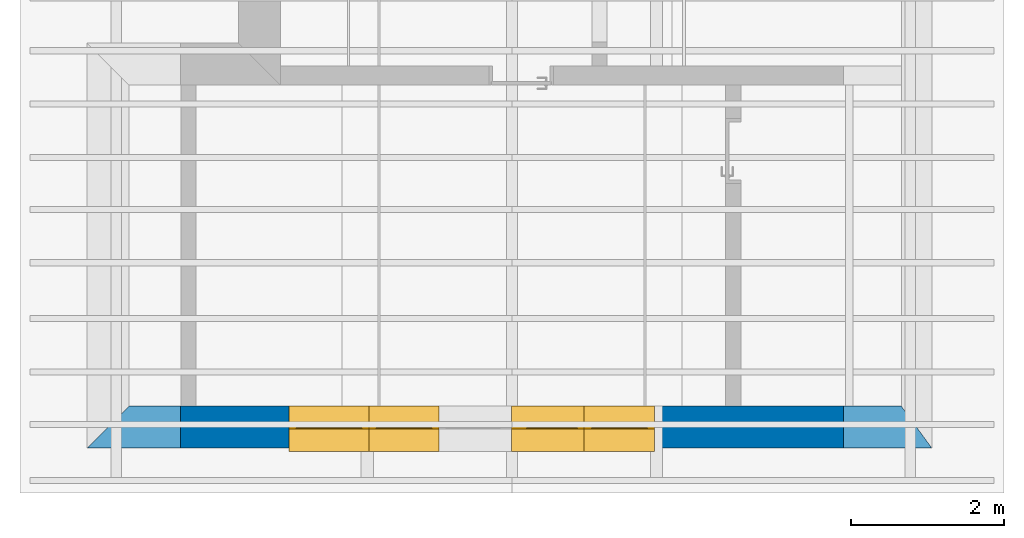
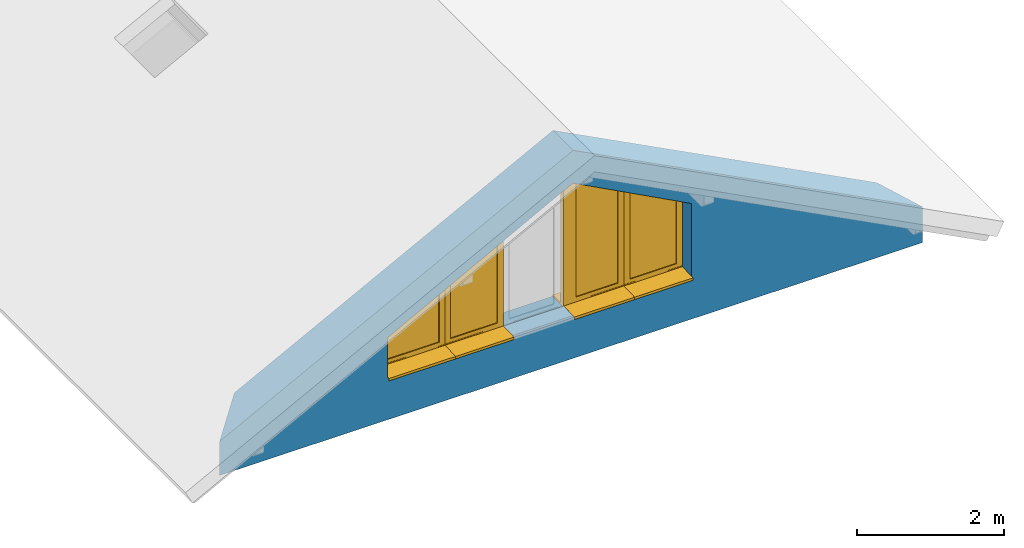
# One storey, part 4 of 18: 4 windows, 1 wall, 5 openings.
"""IFC2X3 building model written with IfcOpenShell, lengths in metres."""

from ifc_helpers import new_model, entity, si_unit, converted_unit, derived_unit, direction, frame, origin, place, context, subcontext, project, spatial, polyline, outline, extrude, clip, bounded_halfspace, faceted_brep, source, transform, mapped, material, material_list, layer, layer_set, layer_usage, type_object, type_shapes, element, fill, save


model = new_model("IFC2X3")

# Units and contexts
model_context = context("Model", 3, precision=1e-05, world=origin(), true_north=direction((6.123233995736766e-17, 1.0)))
body_context = subcontext(model_context, "Body", "Model", "MODEL_VIEW")
ifc_project = project(units=[si_unit("LENGTHUNIT", "METRE"), si_unit("AREAUNIT", "SQUARE_METRE"), si_unit("VOLUMEUNIT", "CUBIC_METRE"), si_unit("POWERUNIT", "WATT"), derived_unit("USERDEFINED", [(si_unit("MASSUNIT", "GRAM", prefix="KILO"), 1), (si_unit("TIMEUNIT", "SECOND"), -3)]), derived_unit("THERMALRESISTANCEUNIT", [(si_unit("MASSUNIT", "GRAM", prefix="KILO"), -1), (si_unit("TIMEUNIT", "SECOND"), 3), (si_unit("THERMODYNAMICTEMPERATUREUNIT", "KELVIN"), 1)]), derived_unit("USERDEFINED", [(si_unit("MASSUNIT", "GRAM", prefix="KILO"), 1), (si_unit("TIMEUNIT", "SECOND"), -2), (si_unit("THERMODYNAMICTEMPERATUREUNIT", "KELVIN"), -1)]), derived_unit("THERMALTRANSMITTANCEUNIT", [(si_unit("MASSUNIT", "GRAM", prefix="KILO"), 1), (si_unit("TIMEUNIT", "SECOND"), -3), (si_unit("THERMODYNAMICTEMPERATUREUNIT", "KELVIN"), -1)]), converted_unit("PLANEANGLEUNIT", "DEGREE", entity("IfcPlaneAngleMeasure", 0.017453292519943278), si_unit("PLANEANGLEUNIT", "RADIAN"), dimensions=[0, 0, 0, 0, 0, 0, 0]), derived_unit("MOMENTOFINERTIAUNIT", [(si_unit("LENGTHUNIT", "METRE"), 4)])], contexts=[model_context])

# Site, building, storey
site_placement = place(None, origin())
site = spatial("IfcSite", under=ifc_project, at=site_placement, Name="Default", CompositionType="ELEMENT")
building_placement = place(site_placement, origin())
building = spatial("IfcBuilding", under=site, at=building_placement, CompositionType="ELEMENT")
storey_placement = place(building_placement, frame((0.0, 0.0, 5.4)))
storey = spatial("IfcBuildingStorey", under=building, at=storey_placement, Name="1. Obergeschoss", CompositionType="ELEMENT", Elevation=5.4)

# Wall, openings, windows
ifc_material_1 = material(Name="Dämmung - hart")
ifc_layer_1 = layer(ifc_material_1, 0.24999999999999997)
ifc_material_2 = material(Name="Mauerwerk - Ziegel")
ifc_layer_2 = layer(ifc_material_2, 0.29999999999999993)
ifc_layer_set = layer_set([ifc_layer_1, ifc_layer_2], Name="Basiswand:Ziegel+WD hart 300+250")
ifc_layer_usage = layer_usage(ifc_layer_set, "AXIS2", "POSITIVE", -0.27499999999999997)
wall_type = type_object("IfcWallType", Name="Basiswand:Ziegel+WD hart 300+250", PredefinedType="STANDARD", material=ifc_layer_set)
wall_placement = place(storey_placement, frame((27.55084124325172, 15.567272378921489, 0.0)))
wall = element("IfcWallStandardCase", 1, at=wall_placement, inside=storey, type_object=wall_type, material=ifc_layer_usage, Name="Basiswand:Ziegel+WD hart 300+250", ObjectType="Basiswand:Ziegel+WD hart 300+250", context=body_context, shape_type="Clipping", body=[
    clip(clip(extrude(outline(polyline([(11.075878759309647, -0.2750000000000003), (10.675878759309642, 0.27499999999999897), (10.043647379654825, 0.2750000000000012), (9.943647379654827, 0.27500000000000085), (8.572913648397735, 0.27500000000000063), (8.372913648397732, 0.27499999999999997), (1.4306053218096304, 0.27500000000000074), (1.2306053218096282, 0.2750000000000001), (0.5499999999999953, 0.27499999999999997), (0.0, -0.2750000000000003), (11.075878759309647, -0.2750000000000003)])), origin(), (0.0, 0.0, 1.0), 3.4651574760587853), bounded_halfspace(frame((0.5499999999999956, 0.2750000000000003, 0.8510321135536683), z_axis=(-0.4617486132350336, 0.0, 0.8870108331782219), x_axis=(0.0, -1.0, 0.0)), False, frame((0.5499999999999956, 0.2750000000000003, 0.8510321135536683)), polyline([(0.0, 0.0), (-0.5499999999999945, -0.5500000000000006), (5.021688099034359, -0.5500000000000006), (5.0216880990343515, 0.0), (0.880605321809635, 0.0), (0.6806053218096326, 0.0), (0.0, 0.0)]))), bounded_halfspace(frame((5.57168809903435, -0.2750000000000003, 3.465157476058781), z_axis=(0.4617486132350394, 0.0, 0.8870108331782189), x_axis=(0.0, 1.0, 0.0)), False, frame((5.57168809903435, -0.2750000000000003, 3.465157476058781)), polyline([(0.0, 0.0), (5.5041906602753, 0.0), (5.104190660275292, 0.5500000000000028), (4.471959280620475, 0.5500000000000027), (4.3719592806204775, 0.5500000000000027), (3.0012255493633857, 0.5500000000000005), (2.801225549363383, 0.5500000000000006), (0.0, 0.5500000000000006), (0.0, 0.0)]))),
])
opening_1_placement = place(wall_placement, frame((-27.550841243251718, -15.567272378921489, 0.7024999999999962)))
opening_1 = element("IfcOpeningElement", 2, at=opening_1_placement, cuts=wall, Name="Basiswand:Ziegel+WD hart 300+250", ObjectType="Opening", context=body_context, shape_type="Brep", body=[
    faceted_brep([(34.9879700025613, 15.27227237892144, 1.2243228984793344), (34.067970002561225, 15.272272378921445, 1.7134955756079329), (34.067970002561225, 15.272272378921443, 0.010000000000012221), (34.9879700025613, 15.27227237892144, 0.010000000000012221), (34.06797000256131, 15.542272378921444, 1.7134955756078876), (34.06797000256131, 15.542272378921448, 1.747472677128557), (34.06797000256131, 15.842272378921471, 1.747472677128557), (34.0679700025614, 15.842272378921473, 0.0), (34.06797000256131, 15.542272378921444, 0.0), (34.06797000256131, 15.542272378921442, 0.020000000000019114), (34.98797000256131, 15.542272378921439, 0.020000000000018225), (34.98797000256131, 15.542272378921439, 0.0), (34.98797000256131, 15.842272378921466, 0.0), (34.98797000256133, 15.842272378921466, 1.2582999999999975), (34.98797000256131, 15.542272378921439, 1.2582999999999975), (34.98797000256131, 15.542272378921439, 1.2243228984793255)], [[[0, 1, 2, 3]], [[1, 4, 5, 6, 7, 8, 9, 2]], [[2, 9, 10, 3]], [[3, 10, 11, 12, 13, 14, 15, 0]], [[0, 15, 4, 1]], [[6, 13, 12, 7]], [[11, 10, 9, 8]], [[6, 5, 14, 13]], [[12, 11, 8, 7]], [[5, 4, 15, 14]]]),
])
opening_2_placement = place(wall_placement, frame((-27.550841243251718, -15.567272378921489, 0.7024999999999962)))
opening_2 = element("IfcOpeningElement", 3, at=opening_2_placement, cuts=wall, Name="Basiswand:Ziegel+WD hart 300+250", ObjectType="Opening", context=body_context, shape_type="Brep", body=[
    faceted_brep([(31.247970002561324, 15.272272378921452, 1.2243228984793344), (31.247970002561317, 15.27227237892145, 0.010000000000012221), (32.1679700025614, 15.27227237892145, 0.010000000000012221), (32.1679700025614, 15.27227237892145, 1.7134955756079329), (32.16797000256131, 15.542272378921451, 0.020000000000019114), (32.16797000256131, 15.542272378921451, 0.0), (32.167970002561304, 15.842272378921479, 0.0), (32.167970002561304, 15.842272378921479, 1.747472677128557), (32.167970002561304, 15.542272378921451, 1.747472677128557), (32.16797000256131, 15.54227237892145, 1.7134955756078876), (31.247970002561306, 15.542272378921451, 0.020000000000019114), (31.247970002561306, 15.542272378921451, 1.2243228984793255), (31.247970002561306, 15.542272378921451, 1.2582999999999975), (31.247970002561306, 15.842272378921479, 1.2582999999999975), (31.247970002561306, 15.842272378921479, 0.0), (31.247970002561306, 15.542272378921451, 0.0)], [[[0, 1, 2, 3]], [[3, 2, 4, 5, 6, 7, 8, 9]], [[2, 1, 10, 4]], [[1, 0, 11, 12, 13, 14, 15, 10]], [[0, 3, 9, 11]], [[7, 6, 14, 13]], [[8, 12, 11, 9]], [[7, 13, 12, 8]], [[14, 6, 5, 15]], [[15, 5, 4, 10]]]),
])
opening_3_placement = place(wall_placement, frame((-27.550841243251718, -15.567272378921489, 0.702472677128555)))
opening_3 = element("IfcOpeningElement", 4, at=opening_3_placement, cuts=wall, Name="Basiswand:Ziegel+WD hart 300+250", ObjectType="Opening", context=body_context, shape_type="Brep", body=[
    faceted_brep([(34.06797000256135, 15.272272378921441, 1.7135228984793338), (33.117970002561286, 15.272272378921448, 2.2186468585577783), (33.117970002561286, 15.272272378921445, 0.010000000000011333), (34.06797000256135, 15.272272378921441, 0.010000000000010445), (33.11797000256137, 15.542272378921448, 2.218646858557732), (33.11797000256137, 15.54227237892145, 2.2526239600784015), (33.11797000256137, 15.842272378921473, 2.2526239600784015), (33.117970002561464, 15.842272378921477, 0.0), (33.11797000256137, 15.542272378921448, 0.0), (33.11797000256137, 15.542272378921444, 0.020000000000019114), (34.06797000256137, 15.54227237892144, 0.020000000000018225), (34.06797000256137, 15.54227237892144, 0.0), (34.06797000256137, 15.842272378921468, 0.0), (34.06797000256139, 15.842272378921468, 1.7474999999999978), (34.06797000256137, 15.54227237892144, 1.7474999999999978), (34.06797000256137, 15.54227237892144, 1.7135228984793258)], [[[0, 1, 2, 3]], [[1, 4, 5, 6, 7, 8, 9, 2]], [[2, 9, 10, 3]], [[3, 10, 11, 12, 13, 14, 15, 0]], [[0, 15, 4, 1]], [[6, 13, 12, 7]], [[11, 10, 9, 8]], [[6, 5, 14, 13]], [[12, 11, 8, 7]], [[5, 4, 15, 14]]]),
])
opening_4_placement = place(wall_placement, frame((-27.550841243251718, -15.567272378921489, 0.702472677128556)))
element("IfcOpeningElement", 5, at=opening_4_placement, cuts=wall, Name="Basiswand:Ziegel+WD hart 300+250", ObjectType="Opening", context=body_context, shape_type="Brep", body=[
    faceted_brep([(32.16797000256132, 15.272272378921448, 1.7135228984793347), (32.16797000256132, 15.272272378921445, 0.010000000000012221), (33.117970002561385, 15.272272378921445, 0.010000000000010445), (33.117970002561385, 15.272272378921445, 2.2186468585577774), (33.1179700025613, 15.542272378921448, 0.020000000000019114), (33.11797000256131, 15.542272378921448, 0.0), (33.1179700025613, 15.842272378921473, 0.0), (33.1179700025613, 15.842272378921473, 2.2526239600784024), (33.1179700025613, 15.542272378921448, 2.252623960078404), (33.11797000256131, 15.542272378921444, 2.218646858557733), (32.1679700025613, 15.542272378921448, 0.020000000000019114), (32.1679700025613, 15.542272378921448, 1.7135228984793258), (32.167970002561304, 15.542272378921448, 1.7474999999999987), (32.1679700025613, 15.842272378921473, 1.7474999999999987), (32.1679700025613, 15.842272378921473, 0.0), (32.1679700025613, 15.542272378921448, 0.0)], [[[0, 1, 2, 3]], [[3, 2, 4, 5, 6, 7, 8, 9]], [[2, 1, 10, 4]], [[1, 0, 11, 12, 13, 14, 15, 10]], [[0, 3, 9, 11]], [[7, 6, 14, 13]], [[8, 12, 11, 9]], [[7, 13, 12, 8]], [[14, 6, 5, 15]], [[15, 5, 4, 10]]]),
])
opening_5_placement = place(wall_placement, frame((-27.550841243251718, -15.567272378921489, 0.7024999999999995)))
opening_5 = element("IfcOpeningElement", 6, at=opening_5_placement, cuts=wall, Name="Basiswand:Ziegel+WD hart 300+250", ObjectType="Opening", context=body_context, shape_type="Brep", body=[
    faceted_brep([(30.197970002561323, 15.272272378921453, 0.6660228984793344), (30.197970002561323, 15.272272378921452, 0.010000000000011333), (31.247970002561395, 15.272272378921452, 0.010000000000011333), (31.247970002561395, 15.272272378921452, 1.2243178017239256), (31.24797000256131, 15.542272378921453, 0.020000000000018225), (31.24797000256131, 15.542272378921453, 0.0), (31.24797000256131, 15.84227237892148, 0.0), (31.247970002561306, 15.84227237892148, 1.2582949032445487), (31.24797000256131, 15.542272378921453, 1.2582949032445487), (31.24797000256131, 15.542272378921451, 1.2243178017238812), (30.19797000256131, 15.542272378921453, 0.020000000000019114), (30.19797000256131, 15.542272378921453, 0.6660228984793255), (30.19797000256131, 15.542272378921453, 0.6999999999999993), (30.19797000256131, 15.84227237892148, 0.6999999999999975), (30.19797000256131, 15.84227237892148, 0.0), (30.19797000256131, 15.542272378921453, 0.0)], [[[0, 1, 2, 3]], [[3, 2, 4, 5, 6, 7, 8, 9]], [[2, 1, 10, 4]], [[1, 0, 11, 12, 13, 14, 15, 10]], [[0, 3, 9, 11]], [[7, 6, 14, 13]], [[8, 12, 11, 9]], [[7, 13, 12, 8]], [[14, 6, 5, 15]], [[15, 5, 4, 10]]]),
])
ifc_material_3 = material(Name="Holz - generisch 140-100-70")
ifc_material_4 = material(Name="Kunststoff - grau 70-70-70")
ifc_material_5 = material(Name="Glas - Isolierverglasung klar")
ifc_material_list = material_list([ifc_material_3, ifc_material_4, ifc_material_5])
window_style_1 = type_object("IfcWindowStyle", Name="FE Schräg 1 tlg - Fix:920 x 1258", ConstructionType="NOTDEFINED", OperationType="NOTDEFINED", ParameterTakesPrecedence=False, Sizeable=False, material=ifc_material_list)
shared_shape_1 = source(origin(), body_context, "Body", "SolidModel", [
    extrude(outline(polyline([(-0.07333333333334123, -0.014333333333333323), (0.1366666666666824, -0.014333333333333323), (0.1366666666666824, 0.010666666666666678), (-0.06333333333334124, 0.010666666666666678), (-0.06333333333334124, 0.0036666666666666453), (-0.07333333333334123, 0.0036666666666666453), (-0.07333333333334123, -0.014333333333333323)])), frame((0.9200000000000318, 0.6433333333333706, 0.010666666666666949), z_axis=(-1.0, 0.0, 0.0), x_axis=(0.0, 1.0, 0.0)), (0.0, 0.0, 1.0), 0.9199999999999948),
    extrude(outline(polyline([(-0.9960295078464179, -0.4599999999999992), (0.7514431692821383, -0.4599999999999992), (0.7514431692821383, 0.4599999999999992), (-0.506856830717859, 0.4599999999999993), (-0.9960295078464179, -0.4599999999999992)]), holes=[polyline([(-0.8435858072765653, -0.36500000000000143), (-0.4527793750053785, 0.3699999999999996), (0.6514431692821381, 0.3699999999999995), (0.6514431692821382, -0.36500000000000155), (-0.8435858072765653, -0.36500000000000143)])]), frame((0.4600000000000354, 0.8700000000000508, 0.7514431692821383), z_axis=(0.0, -1.0, 0.0), x_axis=(0.0, 0.0, -1.0)), (0.0, 0.0, 1.0), 0.08999999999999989),
    extrude(outline(polyline([(-0.8452160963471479, -0.3675000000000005), (0.6498128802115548, -0.3675000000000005), (0.6498128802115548, 0.3675000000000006), (-0.4544096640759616, 0.3675000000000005), (-0.8452160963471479, -0.3675000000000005)])), frame((0.4625000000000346, 0.855000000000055, 0.7498128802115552), z_axis=(0.0, -1.0, 0.0), x_axis=(0.0, 0.0, -1.0)), (0.0, 0.0, 1.0), 0.04399999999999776),
    faceted_brep([(0.9200000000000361, 1.1620000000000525, 0.011185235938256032), (0.0, 1.1620000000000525, 0.011185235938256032), (0.0, 1.1400000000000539, 0.01200005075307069), (0.0, 0.8720000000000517, 0.021925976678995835), (0.9200000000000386, 0.8720000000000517, 0.021925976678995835), (0.9200000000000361, 1.1400000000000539, 0.01200005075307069), (0.9200000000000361, 1.1620000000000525, -0.028814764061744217), (0.0, 1.1620000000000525, -0.028814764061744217), (0.9200000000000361, 1.1500000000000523, -0.028814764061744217), (0.0, 1.1500000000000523, -0.028814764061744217), (0.9200000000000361, 1.1500000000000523, -0.0268147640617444), (0.0, 1.1500000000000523, -0.0268147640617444), (0.9200000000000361, 1.1600000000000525, -0.0268147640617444), (0.0, 1.1600000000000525, -0.0268147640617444), (0.9200000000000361, 1.1600000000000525, 0.009259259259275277), (0.0, 1.1600000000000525, 0.009259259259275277), (0.9200000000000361, 1.1400000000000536, 0.010000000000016), (0.9200000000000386, 0.8700000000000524, 0.02000000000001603), (0.0, 0.8700000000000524, 0.02000000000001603), (0.0, 1.1400000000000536, 0.010000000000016), (0.9200000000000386, 0.8700000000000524, 0.040000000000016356), (0.0, 0.8700000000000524, 0.040000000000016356), (0.9200000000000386, 0.8720000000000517, 0.040000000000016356), (0.0, 0.8720000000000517, 0.040000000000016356)], [[[0, 1, 2, 3, 4, 5]], [[6, 7, 1, 0]], [[8, 9, 7, 6]], [[10, 11, 9, 8]], [[12, 13, 11, 10]], [[14, 15, 13, 12]], [[16, 17, 18, 19, 15, 14]], [[20, 21, 18, 17]], [[22, 23, 21, 20]], [[4, 3, 23, 22]], [[16, 14, 12, 10, 8, 6, 0, 5]], [[19, 18, 21, 23, 3, 2]], [[5, 4, 22, 20, 17, 16]], [[2, 1, 7, 9, 11, 13, 15, 19]]]),
])
type_shapes(window_style_1, [shared_shape_1])
window_1_placement = place(opening_2_placement, frame((32.16797000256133, 16.4122723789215, 0.0), z_axis=(0.0, 0.0, 1.0), x_axis=(-1.0, 0.0, 0.0)))
window_1 = element("IfcWindow", 7, at=window_1_placement, inside=storey, type_object=window_style_1, material=ifc_material_list, Name="FE Schräg 1 tlg - Fix:920 x 1258", ObjectType="FE Schräg 1 tlg - Fix:920 x 1258", OverallHeight=2.597472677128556, OverallWidth=1.0257961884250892, context=body_context, shape_type="MappedRepresentation", body=[
    mapped(shared_shape_1, transform((0.0, 0.0, 0.0), scale=1.0)),
])
fill(opening_2, window_1)
window_style_2 = type_object("IfcWindowStyle", Name="FE Schräg 1 tlg - Fix:950 x 1747", ConstructionType="NOTDEFINED", OperationType="NOTDEFINED", ParameterTakesPrecedence=False, Sizeable=False, material=ifc_material_list)
shared_shape_2 = source(origin(), body_context, "Body", "SolidModel", [
    extrude(outline(polyline([(-0.014333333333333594, -0.07333333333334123), (0.0036666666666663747, -0.07333333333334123), (0.0036666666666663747, -0.06333333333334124), (0.010666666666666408, -0.06333333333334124), (0.010666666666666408, 0.1366666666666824), (-0.014333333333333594, 0.1366666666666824), (-0.014333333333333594, -0.07333333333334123)])), frame((0.0, 0.07333333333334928, 0.010666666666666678), z_axis=(1.0, 0.0, 0.0), x_axis=(0.0, 0.0, -1.0)), (0.0, 0.0, 1.0), 0.9499999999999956),
    extrude(outline(polyline([(-1.2525929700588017, -0.4749999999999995), (1.0000309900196, -0.4749999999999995), (1.0000309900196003, 0.4749999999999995), (-0.7474690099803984, 0.47499999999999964), (-1.2525929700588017, -0.4749999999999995)]), holes=[polyline([(-1.0469783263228, -0.27999999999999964), (-0.6933915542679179, 0.3850000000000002), (0.9000309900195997, 0.38500000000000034), (0.9000309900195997, -0.27999999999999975), (-1.0469783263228, -0.27999999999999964)])]), frame((0.47500000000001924, 0.2100000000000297, 1.0000309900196), z_axis=(0.0, 1.0, 0.0), x_axis=(0.0, 0.0, -1.0)), (0.0, 0.0, 1.0), 0.08999999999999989),
    extrude(outline(polyline([(-1.061901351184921, -0.3325), (0.8851079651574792, -0.3325), (0.8851079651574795, 0.3325), (-0.7083145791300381, 0.3325), (-1.061901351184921, -0.3325)])), frame((0.4225000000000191, 0.24100000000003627, 0.9851079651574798), z_axis=(0.0, 1.0, 0.0), x_axis=(0.0, 0.0, -1.0)), (0.0, 0.0, 1.0), 0.043999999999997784),
    faceted_brep([(0.0, 0.5920000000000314, 0.011185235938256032), (0.0, 0.5700000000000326, 0.01200005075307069), (0.0, 0.30200000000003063, 0.021925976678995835), (0.9500000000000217, 0.30200000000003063, 0.021925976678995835), (0.9500000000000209, 0.5700000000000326, 0.01200005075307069), (0.9500000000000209, 0.5920000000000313, 0.011185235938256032), (0.0, 0.5920000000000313, -0.028814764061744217), (0.9500000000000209, 0.5920000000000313, -0.028814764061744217), (0.0, 0.5800000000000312, -0.028814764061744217), (0.9500000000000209, 0.5800000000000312, -0.028814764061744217), (0.0, 0.5800000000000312, -0.0268147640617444), (0.9500000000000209, 0.5800000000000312, -0.0268147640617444), (0.0, 0.5900000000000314, -0.0268147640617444), (0.9500000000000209, 0.5900000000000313, -0.0268147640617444), (0.0, 0.5900000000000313, 0.009259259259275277), (0.9500000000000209, 0.5900000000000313, 0.009259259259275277), (0.0, 0.5700000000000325, 0.010000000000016), (0.9500000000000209, 0.5700000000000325, 0.010000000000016), (0.9500000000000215, 0.30000000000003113, 0.02000000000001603), (0.0, 0.30000000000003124, 0.02000000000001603), (0.0, 0.30000000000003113, 0.040000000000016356), (0.9500000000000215, 0.30000000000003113, 0.040000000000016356), (0.0, 0.30200000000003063, 0.040000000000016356), (0.9500000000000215, 0.30200000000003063, 0.040000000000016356)], [[[0, 1, 2, 3, 4, 5]], [[6, 0, 5, 7]], [[8, 6, 7, 9]], [[10, 8, 9, 11]], [[12, 10, 11, 13]], [[14, 12, 13, 15]], [[16, 14, 15, 17, 18, 19]], [[20, 19, 18, 21]], [[22, 20, 21, 23]], [[2, 22, 23, 3]], [[16, 1, 0, 6, 8, 10, 12, 14]], [[17, 4, 3, 23, 21, 18]], [[1, 16, 19, 20, 22, 2]], [[4, 17, 15, 13, 11, 9, 7, 5]]]),
])
type_shapes(window_style_2, [shared_shape_2])
window_2_placement = place(opening_3_placement, frame((34.06797000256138, 15.84227237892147, 0.0), z_axis=(0.0, 0.0, 1.0), x_axis=(-1.0, 0.0, 0.0)))
window_2 = element("IfcWindow", 8, at=window_2_placement, inside=storey, type_object=window_style_2, material=ifc_material_list, Name="FE Schräg 1 tlg - Fix:950 x 1747", ObjectType="FE Schräg 1 tlg - Fix:950 x 1747", OverallHeight=3.1026239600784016, OverallWidth=1.0557961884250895, context=body_context, shape_type="MappedRepresentation", body=[
    mapped(shared_shape_2, transform((0.0, 0.0, 0.0), scale=1.0)),
])
fill(opening_3, window_2)
window_style_3 = type_object("IfcWindowStyle", Name="FE Schräg 1 tlg - Fix:920 x 1258", ConstructionType="NOTDEFINED", OperationType="NOTDEFINED", ParameterTakesPrecedence=False, Sizeable=False, material=ifc_material_list)
shared_shape_3 = source(origin(), body_context, "Body", "SolidModel", [
    extrude(outline(polyline([(-0.014333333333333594, -0.07333333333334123), (0.0036666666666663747, -0.07333333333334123), (0.0036666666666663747, -0.06333333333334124), (0.010666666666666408, -0.06333333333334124), (0.010666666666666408, 0.1366666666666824), (-0.014333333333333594, 0.1366666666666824), (-0.014333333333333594, -0.07333333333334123)])), frame((0.0, 0.07333333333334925, 0.010666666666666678), z_axis=(1.0, 0.0, 0.0), x_axis=(0.0, 0.0, -1.0)), (0.0, 0.0, 1.0), 0.9199999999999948),
    extrude(outline(polyline([(-0.9960295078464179, -0.4599999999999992), (0.7514431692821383, -0.4599999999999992), (0.7514431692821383, 0.4599999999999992), (-0.506856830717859, 0.4599999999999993), (-0.9960295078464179, -0.4599999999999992)]), holes=[polyline([(-0.8435858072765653, -0.36500000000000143), (-0.4527793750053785, 0.3699999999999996), (0.6514431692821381, 0.3699999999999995), (0.6514431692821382, -0.36500000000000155), (-0.8435858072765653, -0.36500000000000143)])]), frame((0.4600000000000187, 0.21000000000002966, 0.7514431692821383), z_axis=(0.0, 1.0, 0.0), x_axis=(0.0, 0.0, -1.0)), (0.0, 0.0, 1.0), 0.08999999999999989),
    extrude(outline(polyline([(-0.8452160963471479, -0.3675000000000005), (0.6498128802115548, -0.3675000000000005), (0.6498128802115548, 0.3675000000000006), (-0.4544096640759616, 0.3675000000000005), (-0.8452160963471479, -0.3675000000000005)])), frame((0.45750000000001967, 0.24100000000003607, 0.7498128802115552), z_axis=(0.0, 1.0, 0.0), x_axis=(0.0, 0.0, -1.0)), (0.0, 0.0, 1.0), 0.04399999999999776),
    faceted_brep([(0.0, 0.5920000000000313, 0.011185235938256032), (0.0, 0.5700000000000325, 0.01200005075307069), (0.0, 0.3020000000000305, 0.021925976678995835), (0.920000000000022, 0.3020000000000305, 0.021925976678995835), (0.9200000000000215, 0.5700000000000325, 0.01200005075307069), (0.9200000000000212, 0.5920000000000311, 0.011185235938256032), (0.0, 0.5920000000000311, -0.028814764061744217), (0.9200000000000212, 0.5920000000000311, -0.028814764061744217), (0.0, 0.5800000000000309, -0.028814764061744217), (0.9200000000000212, 0.5800000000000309, -0.028814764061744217), (0.0, 0.5800000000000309, -0.0268147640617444), (0.9200000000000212, 0.5800000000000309, -0.0268147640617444), (0.0, 0.5900000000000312, -0.0268147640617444), (0.9200000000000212, 0.5900000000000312, -0.0268147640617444), (0.0, 0.5900000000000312, 0.009259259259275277), (0.9200000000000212, 0.5900000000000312, 0.009259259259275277), (0.0, 0.5700000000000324, 0.010000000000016), (0.9200000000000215, 0.5700000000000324, 0.010000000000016), (0.920000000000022, 0.3000000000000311, 0.02000000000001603), (0.0, 0.30000000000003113, 0.02000000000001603), (0.0, 0.3000000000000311, 0.040000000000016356), (0.920000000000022, 0.3000000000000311, 0.040000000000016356), (0.0, 0.3020000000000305, 0.040000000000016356), (0.920000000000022, 0.3020000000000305, 0.040000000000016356)], [[[0, 1, 2, 3, 4, 5]], [[6, 0, 5, 7]], [[8, 6, 7, 9]], [[10, 8, 9, 11]], [[12, 10, 11, 13]], [[14, 12, 13, 15]], [[16, 14, 15, 17, 18, 19]], [[20, 19, 18, 21]], [[22, 20, 21, 23]], [[2, 22, 23, 3]], [[16, 1, 0, 6, 8, 10, 12, 14]], [[17, 4, 3, 23, 21, 18]], [[1, 16, 19, 20, 22, 2]], [[4, 17, 15, 13, 11, 9, 7, 5]]]),
])
type_shapes(window_style_3, [shared_shape_3])
window_3_placement = place(opening_1_placement, frame((34.987970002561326, 15.84227237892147, 0.0), z_axis=(0.0, 0.0, 1.0), x_axis=(-1.0, 0.0, 0.0)))
window_3 = element("IfcWindow", 9, at=window_3_placement, inside=storey, type_object=window_style_3, material=ifc_material_list, Name="FE Schräg 1 tlg - Fix:920 x 1258", ObjectType="FE Schräg 1 tlg - Fix:920 x 1258", OverallHeight=2.597472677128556, OverallWidth=1.0257961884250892, context=body_context, shape_type="MappedRepresentation", body=[
    mapped(shared_shape_3, transform((0.0, 0.0, 0.0), scale=1.0)),
])
fill(opening_1, window_3)
window_style_4 = type_object("IfcWindowStyle", Name="FE Schräg 1 tlg - Fix:700 x 1050", ConstructionType="NOTDEFINED", OperationType="NOTDEFINED", ParameterTakesPrecedence=False, Sizeable=False, material=ifc_material_list)
shared_shape_4 = source(origin(), body_context, "Body", "SolidModel", [
    extrude(outline(polyline([(-0.07333333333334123, -0.014333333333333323), (0.1366666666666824, -0.014333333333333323), (0.1366666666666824, 0.010666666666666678), (-0.06333333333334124, 0.010666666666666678), (-0.06333333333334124, 0.0036666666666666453), (-0.07333333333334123, 0.0036666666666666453), (-0.07333333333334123, -0.014333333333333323)])), frame((1.0500000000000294, 0.6433333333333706, 0.010666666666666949), z_axis=(-1.0, 0.0, 0.0), x_axis=(0.0, 1.0, 0.0)), (0.0, 0.0, 1.0), 1.0499999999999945),
    extrude(outline(polyline([(-0.768721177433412, -0.5249999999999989), (0.4895737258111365, -0.5249999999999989), (0.48957372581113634, 0.5249999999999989), (-0.2104262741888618, 0.524999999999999), (-0.768721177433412, -0.5249999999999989)]), holes=[polyline([(-0.6189360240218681, -0.43500000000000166), (-0.15634881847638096, 0.43500000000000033), (0.3895737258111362, 0.43500000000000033), (0.3895737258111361, -0.4350000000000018), (-0.6189360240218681, -0.43500000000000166)])]), frame((0.5250000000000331, 0.8700000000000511, 0.4895737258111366), z_axis=(0.0, -1.0, 0.0), x_axis=(0.0, 0.0, -1.0)), (0.0, 0.0, 1.0), 0.08999999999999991),
    extrude(outline(polyline([(-0.6199016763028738, -0.4350000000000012), (0.38860807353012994, -0.4350000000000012), (0.3886080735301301, 0.43500000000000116), (-0.15731447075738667, 0.43500000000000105), (-0.6199016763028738, -0.4350000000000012)])), frame((0.5250000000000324, 0.8550000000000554, 0.48860807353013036), z_axis=(0.0, -1.0, 0.0), x_axis=(0.0, 0.0, -1.0)), (0.0, 0.0, 1.0), 0.043999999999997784),
    faceted_brep([(1.0500000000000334, 1.1620000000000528, 0.011185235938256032), (0.0, 1.162000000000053, 0.011185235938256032), (0.0, 1.1400000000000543, 0.01200005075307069), (0.0, 0.8720000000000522, 0.021925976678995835), (1.0500000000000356, 0.8720000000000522, 0.021925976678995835), (1.0500000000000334, 1.1400000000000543, 0.01200005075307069), (1.0500000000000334, 1.1620000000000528, -0.028814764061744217), (0.0, 1.1620000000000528, -0.028814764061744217), (1.0500000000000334, 1.1500000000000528, -0.028814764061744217), (0.0, 1.1500000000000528, -0.028814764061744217), (1.0500000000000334, 1.1500000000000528, -0.0268147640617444), (0.0, 1.1500000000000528, -0.0268147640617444), (1.0500000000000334, 1.160000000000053, -0.0268147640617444), (0.0, 1.160000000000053, -0.0268147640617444), (1.0500000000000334, 1.160000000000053, 0.009259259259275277), (0.0, 1.160000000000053, 0.009259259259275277), (1.0500000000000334, 1.140000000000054, 0.010000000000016), (1.0500000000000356, 0.8700000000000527, 0.02000000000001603), (0.0, 0.870000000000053, 0.02000000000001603), (0.0, 1.140000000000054, 0.010000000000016), (1.0500000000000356, 0.8700000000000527, 0.040000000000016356), (0.0, 0.8700000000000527, 0.040000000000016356), (1.0500000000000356, 0.8720000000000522, 0.040000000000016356), (0.0, 0.8720000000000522, 0.040000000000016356)], [[[0, 1, 2, 3, 4, 5]], [[6, 7, 1, 0]], [[8, 9, 7, 6]], [[10, 11, 9, 8]], [[12, 13, 11, 10]], [[14, 15, 13, 12]], [[16, 17, 18, 19, 15, 14]], [[20, 21, 18, 17]], [[22, 23, 21, 20]], [[4, 3, 23, 22]], [[16, 14, 12, 10, 8, 6, 0, 5]], [[19, 18, 21, 23, 3, 2]], [[5, 4, 22, 20, 17, 16]], [[2, 1, 7, 9, 11, 13, 15, 19]]]),
])
type_shapes(window_style_4, [shared_shape_4])
window_4_placement = place(opening_5_placement, frame((31.24797000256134, 16.412272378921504, 0.0), z_axis=(0.0, 0.0, 1.0), x_axis=(-1.0, 0.0, 0.0)))
window_4 = element("IfcWindow", 10, at=window_4_placement, inside=storey, type_object=window_style_4, material=ifc_material_list, Name="FE Schräg 1 tlg - Fix:700 x 1050", ObjectType="FE Schräg 1 tlg - Fix:700 x 1050", OverallHeight=2.258715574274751, OverallWidth=1.1557961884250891, context=body_context, shape_type="MappedRepresentation", body=[
    mapped(shared_shape_4, transform((0.0, 0.0, 0.0), scale=1.0)),
])
fill(opening_5, window_4)

save(model, "model.ifc")
